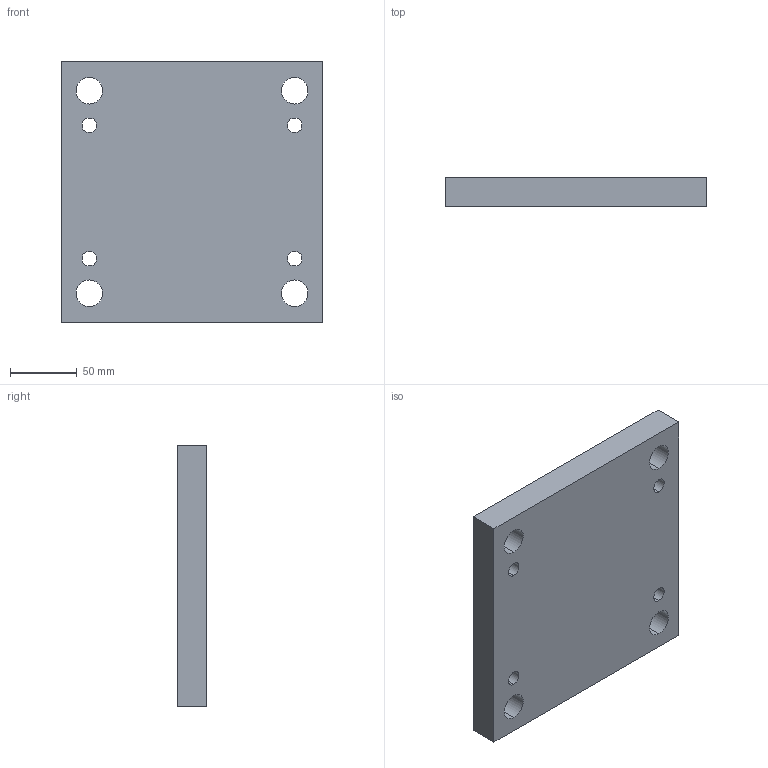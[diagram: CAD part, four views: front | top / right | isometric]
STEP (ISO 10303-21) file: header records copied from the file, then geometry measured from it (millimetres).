
FILE_DESCRIPTION (( 'STEP AP214' ), '1' );
FILE_NAME ('L30_196x196x22.STEP', '2018-10-05T18:06:20', ( '' ), ( '' ), 'SwSTEP 2.0', 'SolidWorks 2014', '' );
FILE_SCHEMA (( 'AUTOMOTIVE_DESIGN' ));
Length unit declared in the file: millimetre
Products named in the file (1): L30_196x196x22
Bounding box: 196 x 22 x 196 mm (x, y, z)
Volume: 800852.4 mm3; surface area: 100520.3 mm2
Topology: 1 solids, 1 shells, 34 faces, 84 edges, 56 vertices
Faces by surface type: cylinder 24, plane 10
Entity records: 1102 total; most frequent: DIRECTION 202, CARTESIAN_POINT 175, ORIENTED_EDGE 168, EDGE_CURVE 84, AXIS2_PLACEMENT_3D 83, VERTEX_POINT 56, EDGE_LOOP 54, CIRCLE 48
